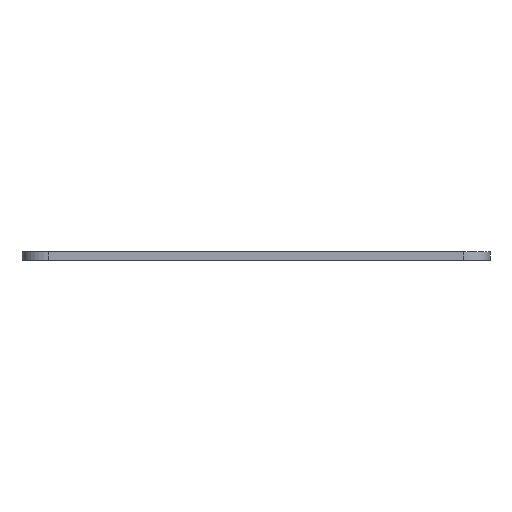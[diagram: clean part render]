
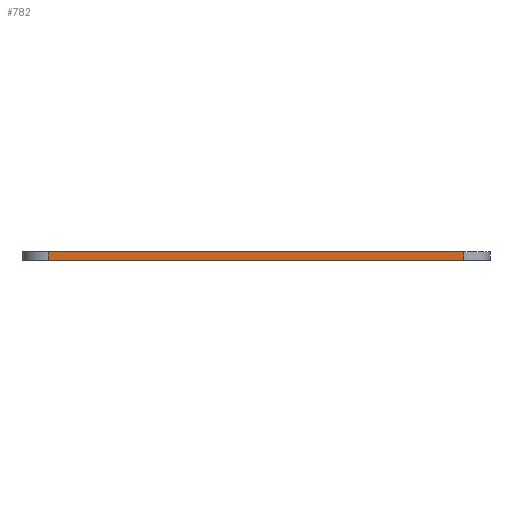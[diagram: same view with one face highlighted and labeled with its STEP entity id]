
A CAD part, left-side view. The second image highlights one B-rep face of the part: STEP entity #782.
In plain terms, the highlighted planar face has unit normal (-1, 0, 0).
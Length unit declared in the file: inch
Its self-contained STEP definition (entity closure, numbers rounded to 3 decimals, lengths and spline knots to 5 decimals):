
#86 = EDGE_CURVE ( 'NONE', #166, #165, #437, .T. ) ;
#89 = EDGE_CURVE ( 'NONE', #164, #165, #442, .T. ) ;
#98 = EDGE_CURVE ( 'NONE', #163, #164, #460, .T. ) ;
#103 = EDGE_CURVE ( 'NONE', #166, #163, #470, .T. ) ;
#163 = VERTEX_POINT ( 'NONE', #627 ) ;
#164 = VERTEX_POINT ( 'NONE', #628 ) ;
#165 = VERTEX_POINT ( 'NONE', #629 ) ;
#166 = VERTEX_POINT ( 'NONE', #630 ) ;
#277 = EDGE_LOOP ( 'NONE', ( #320, #321, #322, #323 ) ) ;
#320 = ORIENTED_EDGE ( 'NONE', *, *, #98, .T. ) ;
#321 = ORIENTED_EDGE ( 'NONE', *, *, #89, .T. ) ;
#322 = ORIENTED_EDGE ( 'NONE', *, *, #86, .F. ) ;
#323 = ORIENTED_EDGE ( 'NONE', *, *, #103, .T. ) ;
#437 = LINE ( 'NONE', #540, #439 ) ;
#439 = VECTOR ( 'NONE', #549, 39.37008 ) ;
#442 = LINE ( 'NONE', #547, #444 ) ;
#444 = VECTOR ( 'NONE', #555, 39.37008 ) ;
#460 = LINE ( 'NONE', #574, #461 ) ;
#461 = VECTOR ( 'NONE', #575, 39.37008 ) ;
#470 = LINE ( 'NONE', #584, #471 ) ;
#471 = VECTOR ( 'NONE', #585, 39.37008 ) ;
#516 = FACE_OUTER_BOUND ( 'NONE', #277, .T. ) ;
#540 = CARTESIAN_POINT ( 'NONE',  ( 0., 3.375, 0.0625 ) ) ;
#547 = CARTESIAN_POINT ( 'NONE',  ( 0., 0.19062, 0.0625 ) ) ;
#549 = DIRECTION ( 'NONE',  ( 0., -1., 0. ) ) ;
#555 = DIRECTION ( 'NONE',  ( 0., 0., 1. ) ) ;
#574 = CARTESIAN_POINT ( 'NONE',  ( 0., 3.375, 0. ) ) ;
#575 = DIRECTION ( 'NONE',  ( 0., -1., 0. ) ) ;
#584 = CARTESIAN_POINT ( 'NONE',  ( 0., 3.18437, 0.0625 ) ) ;
#585 = DIRECTION ( 'NONE',  ( 0., 0., -1. ) ) ;
#627 = CARTESIAN_POINT ( 'NONE',  ( 0., 3.18437, 0. ) ) ;
#628 = CARTESIAN_POINT ( 'NONE',  ( 0., 0.19062, 0. ) ) ;
#629 = CARTESIAN_POINT ( 'NONE',  ( 0., 0.19062, 0.0625 ) ) ;
#630 = CARTESIAN_POINT ( 'NONE',  ( 0., 3.18437, 0.0625 ) ) ;
#689 = CARTESIAN_POINT ( 'NONE',  ( 0., 3.375, 0.0625 ) ) ;
#690 = PLANE ( 'NONE',  #745 ) ;
#700 = DIRECTION ( 'NONE',  ( 1., 0., 0. ) ) ;
#701 = DIRECTION ( 'NONE',  ( 0., 1., 0. ) ) ;
#745 = AXIS2_PLACEMENT_3D ( 'NONE', #689, #700, #701 ) ;
#782 = ADVANCED_FACE ( 'NONE', ( #516 ), #690, .F. ) ;
